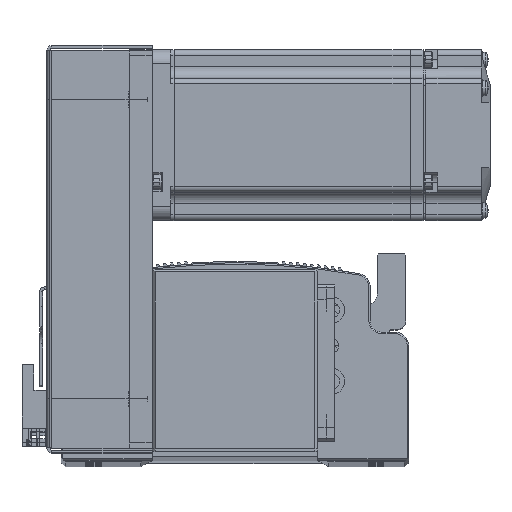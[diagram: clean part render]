
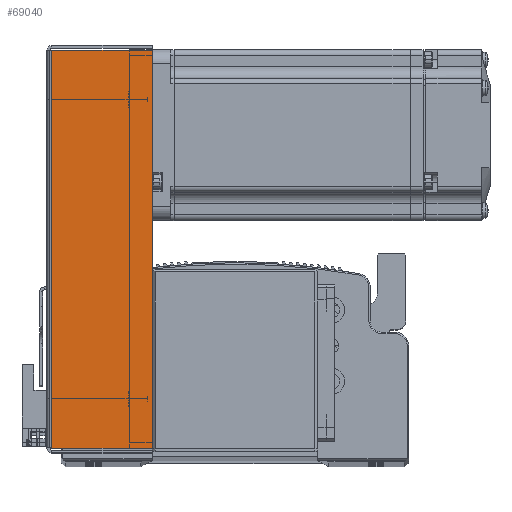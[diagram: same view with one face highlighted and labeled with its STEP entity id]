
A CAD part, top view. The second image highlights one B-rep face of the part: STEP entity #69040.
In plain terms, the highlighted planar face has unit normal (0, 0, 1) as drawn and (0, 0, -1) by its records, which use the part's own axes.
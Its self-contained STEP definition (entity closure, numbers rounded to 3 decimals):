
#2176 = FACE_OUTER_BOUND ( 'NONE', #78552, .T. ) ;
#7203 = AXIS2_PLACEMENT_3D ( 'NONE', #49170, #49172, #49147 ) ;
#21650 = VERTEX_POINT ( 'NONE', #53575 ) ;
#21710 = VERTEX_POINT ( 'NONE', #53612 ) ;
#21726 = VERTEX_POINT ( 'NONE', #53626 ) ;
#21766 = VERTEX_POINT ( 'NONE', #53621 ) ;
#29688 = EDGE_CURVE ( 'NONE', #21710, #21650, #62461, .T. ) ;
#29812 = EDGE_CURVE ( 'NONE', #21650, #21766, #62613, .T. ) ;
#29823 = EDGE_CURVE ( 'NONE', #21710, #21726, #62620, .T. ) ;
#29829 = EDGE_CURVE ( 'NONE', #21726, #21766, #62628, .T. ) ;
#48785 = DIRECTION ( 'NONE',  ( 1., 0., 0. ) ) ;
#48806 = CARTESIAN_POINT ( 'NONE',  ( 71.5, 0.737, -33.5 ) ) ;
#49113 = PLANE ( 'NONE',  #7203 ) ;
#49147 = DIRECTION ( 'NONE',  ( 0., -1., 0. ) ) ;
#49170 = CARTESIAN_POINT ( 'NONE',  ( 0., 0., -33.5 ) ) ;
#49172 = DIRECTION ( 'NONE',  ( 0., 0., 1. ) ) ;
#49180 = CARTESIAN_POINT ( 'NONE',  ( 69.793, 0., -33.5 ) ) ;
#49193 = CARTESIAN_POINT ( 'NONE',  ( -69.793, 0., -33.5 ) ) ;
#49227 = DIRECTION ( 'NONE',  ( 0., 1., 0. ) ) ;
#49292 = DIRECTION ( 'NONE',  ( 0., 1., 0. ) ) ;
#49294 = CARTESIAN_POINT ( 'NONE',  ( 0., 36., -33.5 ) ) ;
#49351 = DIRECTION ( 'NONE',  ( 1., 0., 0. ) ) ;
#53222 = ORIENTED_EDGE ( 'NONE', *, *, #29829, .T. ) ;
#53290 = ORIENTED_EDGE ( 'NONE', *, *, #29812, .F. ) ;
#53292 = ORIENTED_EDGE ( 'NONE', *, *, #29823, .T. ) ;
#53304 = ORIENTED_EDGE ( 'NONE', *, *, #29688, .F. ) ;
#53575 = CARTESIAN_POINT ( 'NONE',  ( 69.793, 0.737, -33.5 ) ) ;
#53612 = CARTESIAN_POINT ( 'NONE',  ( -69.793, 0.737, -33.5 ) ) ;
#53621 = CARTESIAN_POINT ( 'NONE',  ( 69.793, 36., -33.5 ) ) ;
#53626 = CARTESIAN_POINT ( 'NONE',  ( -69.793, 36., -33.5 ) ) ;
#62461 = LINE ( 'NONE', #48806, #62484 ) ;
#62484 = VECTOR ( 'NONE', #48785, 1000. ) ;
#62576 = VECTOR ( 'NONE', #49227, 1000. ) ;
#62585 = VECTOR ( 'NONE', #49351, 1000. ) ;
#62613 = LINE ( 'NONE', #49180, #62576 ) ;
#62620 = LINE ( 'NONE', #49193, #62625 ) ;
#62625 = VECTOR ( 'NONE', #49292, 1000. ) ;
#62628 = LINE ( 'NONE', #49294, #62585 ) ;
#69040 = ADVANCED_FACE ( 'NONE', ( #2176 ), #49113, .F. ) ;
#78552 = EDGE_LOOP ( 'NONE', ( #53304, #53292, #53222, #53290 ) ) ;
